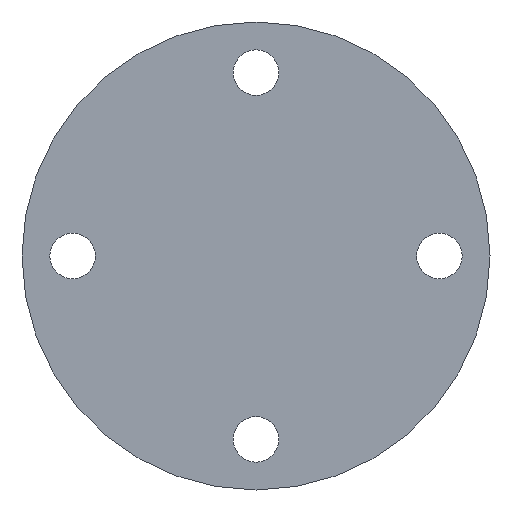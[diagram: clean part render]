
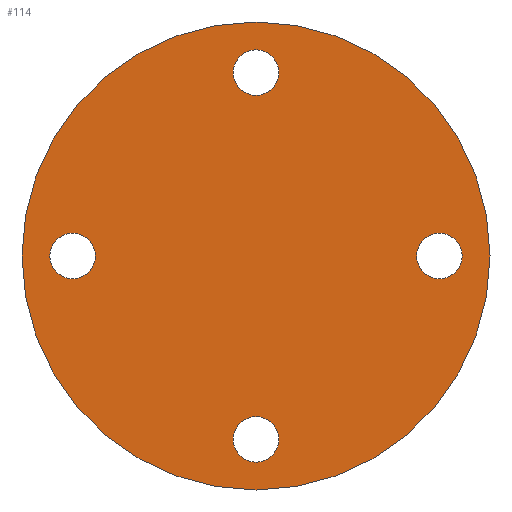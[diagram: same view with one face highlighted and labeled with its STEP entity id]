
A CAD part, front view. The second image highlights one B-rep face of the part: STEP entity #114.
In plain terms, the highlighted planar face has unit normal (0, -1, 0).
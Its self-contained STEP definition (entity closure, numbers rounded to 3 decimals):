
#13=PLANE($,#132);
#19=FACE_BOUND($,#43,.T.);
#20=FACE_BOUND($,#44,.T.);
#21=FACE_BOUND($,#45,.T.);
#22=FACE_BOUND($,#46,.T.);
#23=FACE_BOUND($,#47,.T.);
#43=EDGE_LOOP($,(#93));
#44=EDGE_LOOP($,(#94));
#45=EDGE_LOOP($,(#95));
#46=EDGE_LOOP($,(#96));
#47=EDGE_LOOP($,(#97));
#56=CIRCLE($,#122,9.);
#58=CIRCLE($,#125,9.);
#60=CIRCLE($,#128,9.);
#62=CIRCLE($,#131,9.);
#63=CIRCLE($,#133,92.5);
#66=VERTEX_POINT($,#177);
#68=VERTEX_POINT($,#182);
#70=VERTEX_POINT($,#187);
#72=VERTEX_POINT($,#192);
#73=VERTEX_POINT($,#195);
#76=EDGE_CURVE($,#66,#66,#56,.T.);
#78=EDGE_CURVE($,#68,#68,#58,.T.);
#80=EDGE_CURVE($,#70,#70,#60,.T.);
#82=EDGE_CURVE($,#72,#72,#62,.T.);
#83=EDGE_CURVE($,#73,#73,#63,.T.);
#93=ORIENTED_EDGE($,*,*,#76,.T.);
#94=ORIENTED_EDGE($,*,*,#78,.T.);
#95=ORIENTED_EDGE($,*,*,#80,.T.);
#96=ORIENTED_EDGE($,*,*,#82,.T.);
#97=ORIENTED_EDGE($,*,*,#83,.F.);
#114=ADVANCED_FACE($,(#19,#20,#21,#22,#23),#13,.T.);
#122=AXIS2_PLACEMENT_3D($,#178,#143,#144);
#125=AXIS2_PLACEMENT_3D($,#183,#149,#150);
#128=AXIS2_PLACEMENT_3D($,#188,#155,#156);
#131=AXIS2_PLACEMENT_3D($,#193,#161,#162);
#132=AXIS2_PLACEMENT_3D($,#194,#163,#164);
#133=AXIS2_PLACEMENT_3D($,#196,#165,#166);
#143=DIRECTION('center_axis',(0.,1.,0.));
#144=DIRECTION('ref_axis',(0.,0.,1.));
#149=DIRECTION('center_axis',(0.,1.,0.));
#150=DIRECTION('ref_axis',(-1.,0.,0.));
#155=DIRECTION('center_axis',(0.,1.,0.));
#156=DIRECTION('ref_axis',(0.,0.,-1.));
#161=DIRECTION('center_axis',(0.,1.,0.));
#162=DIRECTION('ref_axis',(1.,0.,0.));
#163=DIRECTION('center_axis',(0.,-1.,0.));
#164=DIRECTION('ref_axis',(0.,0.,-1.));
#165=DIRECTION('center_axis',(0.,1.,0.));
#166=DIRECTION('ref_axis',(-1.,0.,0.));
#177=CARTESIAN_POINT('',(0.,0.,63.5));
#178=CARTESIAN_POINT('Origin',(0.,0.,72.5));
#182=CARTESIAN_POINT('',(-63.5,0.,0.));
#183=CARTESIAN_POINT('Origin',(-72.5,0.,0.));
#187=CARTESIAN_POINT('',(0.,0.,-63.5));
#188=CARTESIAN_POINT('Origin',(0.,0.,-72.5));
#192=CARTESIAN_POINT('',(63.5,0.,0.));
#193=CARTESIAN_POINT('Origin',(72.5,0.,0.));
#194=CARTESIAN_POINT('Origin',(-46.25,0.,0.));
#195=CARTESIAN_POINT('',(-92.5,0.,0.));
#196=CARTESIAN_POINT('Origin',(0.,0.,0.));
